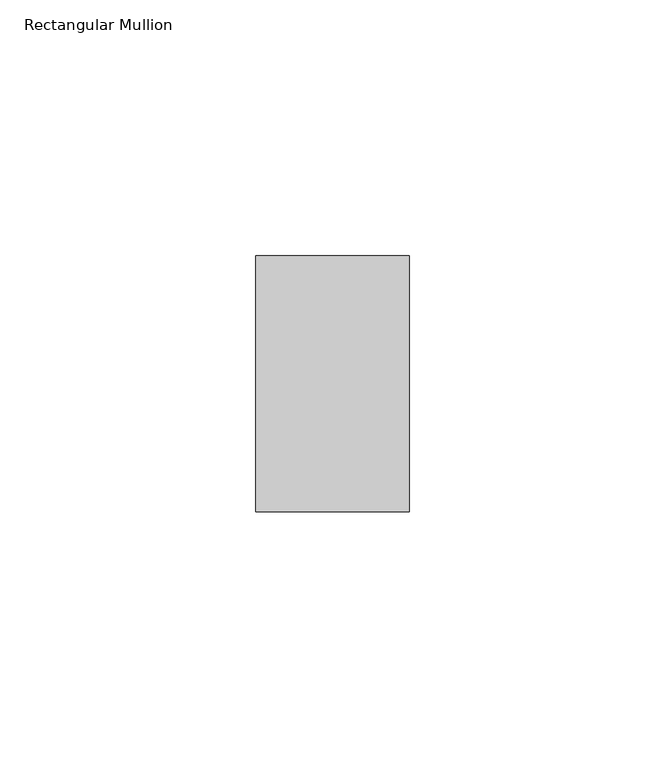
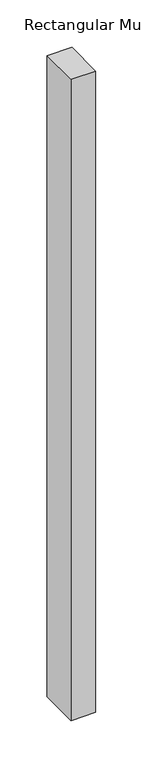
"""IFC4 building model written with IfcOpenShell, lengths in millimetres: member geometry, Rectangular Mullion : ARQ_TV_MULL_50x30mm."""

from ifc_helpers import new_model, si_unit, frame, origin, place, context, project, spatial, polyline, outline, extrude, source, transform, mapped, element, save


def rectangular_mullion_c3d7c421(model_context):
    return source(origin(), model_context, "Body", "SweptSolid", [
        extrude(outline(polyline([(0.0, 25.0), (0.0, -25.0), (-30.0, -25.0), (-30.0, 25.0), (0.0, 25.0)])), frame((0.0, 0.0, -825.0), z_axis=(0.0, 0.0, 1.0), x_axis=(1.0, 0.0, 0.0)), (0.0, 0.0, 1.0), 825.0),
    ])


if __name__ == "__main__":
    model = new_model("IFC4")
    model_context = context("Model", 3, world=origin())
    ifc_project = project(units=[si_unit("LENGTHUNIT", "METRE", prefix="MILLI")], contexts=[model_context])
    site = spatial("IfcSite", under=ifc_project)
    building = spatial("IfcBuilding", under=site)
    placement = place(None, origin())
    rectangular_mullion_shape = rectangular_mullion_c3d7c421(model_context)
    element("IfcMember", 1, ObjectType="Rectangular Mullion : ARQ_TV_MULL_50x30mm", at=placement, inside=building, context=model_context, shape_type="MappedRepresentation", body=[
        mapped(rectangular_mullion_shape, transform((0.0, 0.0, 0.0), x_axis=(1.0, 0.0, 0.0), y_axis=(0.0, 1.0, 0.0), z_axis=(0.0, 0.0, 1.0))),
    ])
    save(model, "model.ifc")
